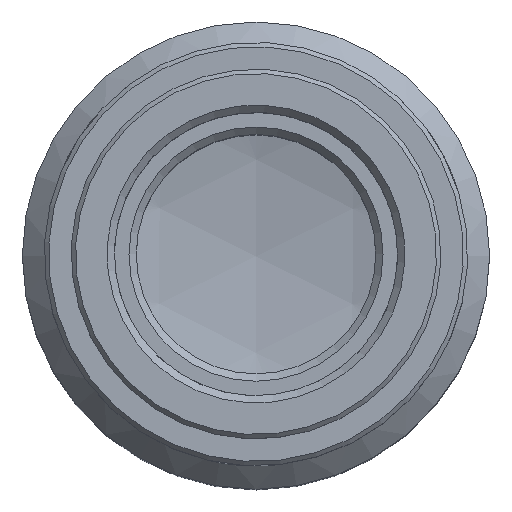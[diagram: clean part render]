
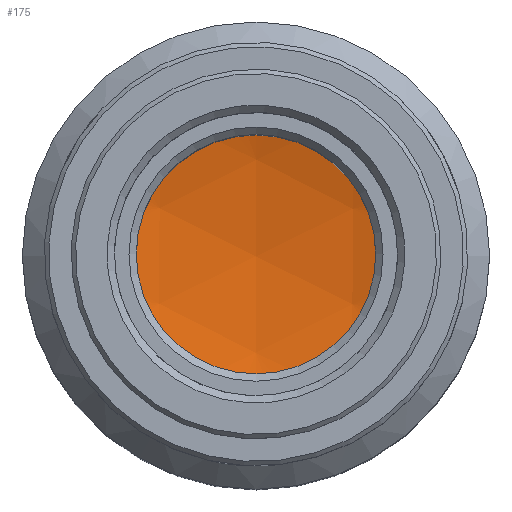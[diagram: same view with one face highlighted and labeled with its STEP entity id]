
A CAD part, top view. The second image highlights one B-rep face of the part: STEP entity #175.
In plain terms, the highlighted spherical face has radius 42.2 mm.
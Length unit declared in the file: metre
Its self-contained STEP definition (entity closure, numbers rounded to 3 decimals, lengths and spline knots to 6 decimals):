
#175=ADVANCED_FACE('20:1392',(#433),#434,.F.);
#433=FACE_OUTER_BOUND('',#826,.T.);
#434=SPHERICAL_SURFACE('',#827,0.0422);
#826=EDGE_LOOP('',(#1578));
#827=AXIS2_PLACEMENT_3D('',#1579,#1580,#1581);
#1578=ORIENTED_EDGE('',*,*,#2357,.F.);
#1579=CARTESIAN_POINT('',(0.000546,0.00141,0.010929));
#1580=DIRECTION('',(1.,-0.004,0.));
#1581=DIRECTION('',(0.004,1.,0.));
#2357=EDGE_CURVE('20:1803',#2702,#2702,#2703,.T.);
#2702=VERTEX_POINT('',#3211);
#2703=CIRCLE('',#3212,0.013071);
#3211=CARTESIAN_POINT('',(-0.012525,0.00141,-0.029196));
#3212=AXIS2_PLACEMENT_3D('',#3985,#3986,#3987);
#3985=CARTESIAN_POINT('',(0.000546,0.00141,-0.029196));
#3986=DIRECTION('',(0.,0.0,-1.0));
#3987=DIRECTION('',(-1.0,0.0,0.));
